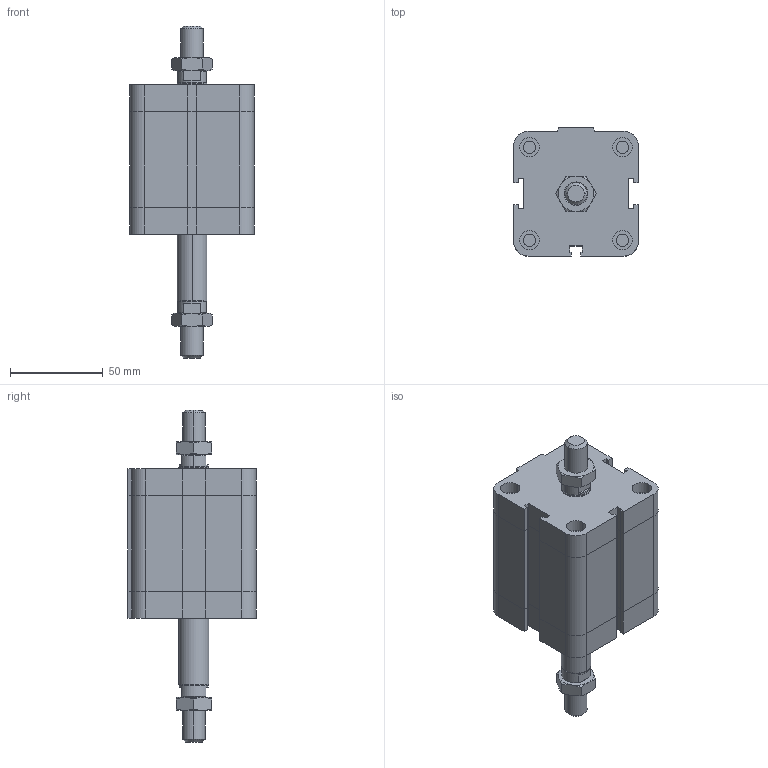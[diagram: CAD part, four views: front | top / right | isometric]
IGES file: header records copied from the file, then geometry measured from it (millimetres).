
Global section: file name: No Iges File Name specified; native system: Autodesk Inventor 2009; preprocessor: AutoDesk Inventor Iges Exporter R2009; author: maffial1; date: 20090420.200936; units: millimetre
Bounding box: 67 x 69 x 178.5 mm (x, y, z)
Volume: 353918.1 mm3; surface area: 52378.5 mm2
Topology: 4 solids, 4 shells, 260 faces, 574 edges, 342 vertices
Faces by surface type: plane 129, bspline 51, cone 38, cylinder 22, revolution 20
